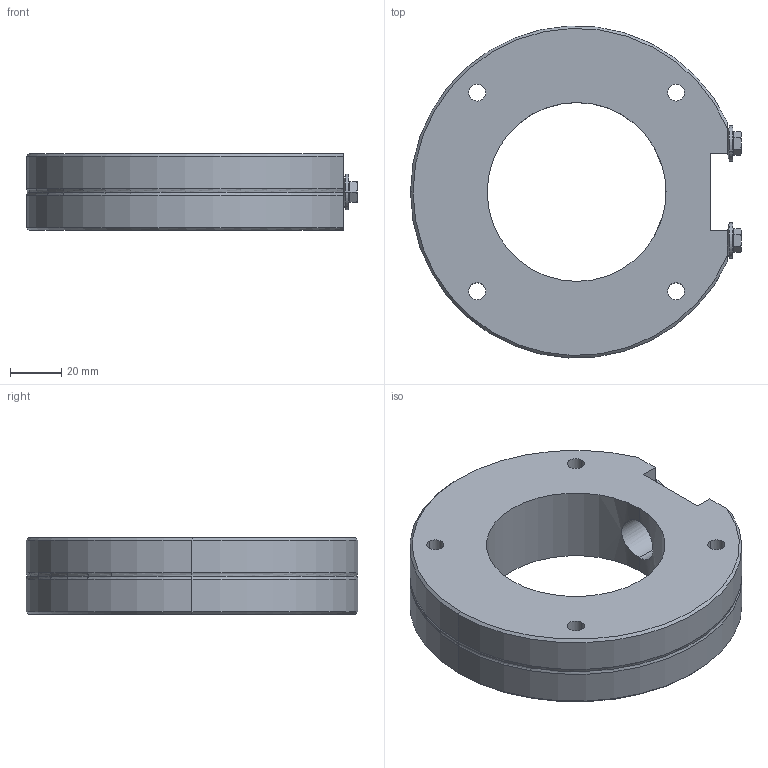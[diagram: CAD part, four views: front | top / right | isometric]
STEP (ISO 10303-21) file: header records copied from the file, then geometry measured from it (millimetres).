
FILE_DESCRIPTION((''),'2;1');
FILE_NAME('N:\Transfer\Berger Martin\Leybold\C13\28660.stp','2005-02-08T11:28:56',('PESO'),(''),'Autodesk Inventor 9','Autodesk Inventor 9','');
FILE_SCHEMA(('AUTOMOTIVE_DESIGN { 1 0 10303 214 1 1 1 1 }'));
Length unit declared in the file: millimetre
Products named in the file (1): 28660
Bounding box: 129.5 x 129.85 x 30 mm (x, y, z)
Volume: 262001.7 mm3; surface area: 40724.4 mm2
Topology: 1 solids, 7 shells, 111 faces, 256 edges, 156 vertices
Faces by surface type: plane 35, cone 28, cylinder 22, bspline 22, torus 4
Entity records: 3478 total; most frequent: CARTESIAN_POINT 997, DIRECTION 519, ORIENTED_EDGE 504, EDGE_CURVE 252, AXIS2_PLACEMENT_3D 204, VERTEX_POINT 156, EDGE_LOOP 132, CIRCLE 114
